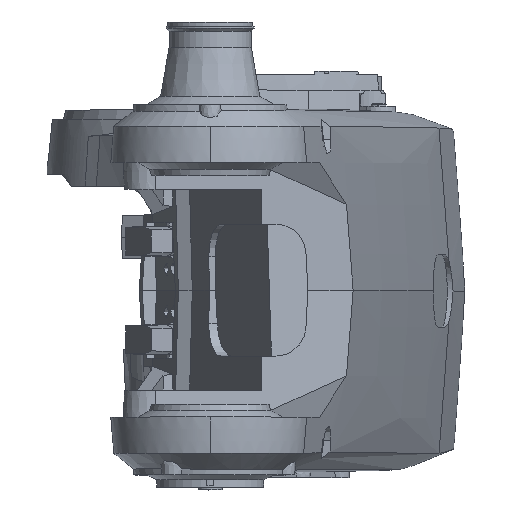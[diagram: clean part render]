
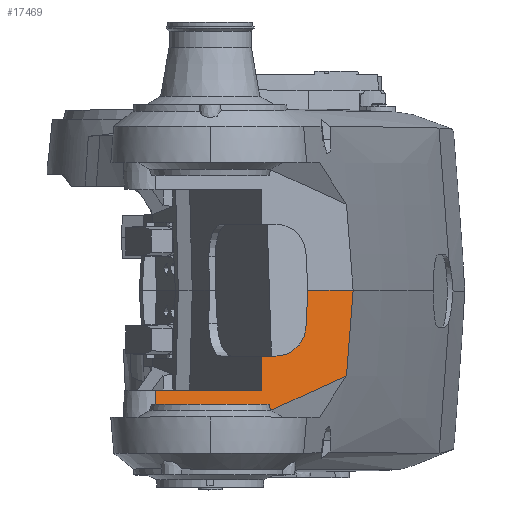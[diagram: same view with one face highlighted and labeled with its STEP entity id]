
A CAD part, top view. The second image highlights one B-rep face of the part: STEP entity #17469.
In plain terms, the highlighted planar face has unit normal (0.242, 0.035, 0.97).
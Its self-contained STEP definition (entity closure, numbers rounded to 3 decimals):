
#5 = LINE ( 'NONE', #23259, #13799 ) ;
#535 = CARTESIAN_POINT ( 'NONE',  ( 255.982, -148.5, 2132.939 ) ) ;
#747 = VERTEX_POINT ( 'NONE', #535 ) ;
#1765 = CARTESIAN_POINT ( 'NONE',  ( 479.06, -100.014, 2075.574 ) ) ;
#2645 = EDGE_CURVE ( 'NONE', #33471, #28735, #5, .T. ) ;
#3617 = LINE ( 'NONE', #35224, #18305 ) ;
#3838 = VERTEX_POINT ( 'NONE', #8697 ) ;
#4318 = VECTOR ( 'NONE', #4359, 1000. ) ;
#4359 = DIRECTION ( 'NONE',  ( -0.008, 0.999, -0.034 ) ) ;
#4596 = VERTEX_POINT ( 'NONE', #18001 ) ;
#5451 = VECTOR ( 'NONE', #16061, 1000. ) ;
#5471 = VERTEX_POINT ( 'NONE', #23297 ) ;
#5624 = CARTESIAN_POINT ( 'NONE',  ( 379.48, -117.5, 2101.031 ) ) ;
#6243 = CARTESIAN_POINT ( 'NONE',  ( 430.674, -63.466, 2086.323 ) ) ;
#6297 = EDGE_CURVE ( 'NONE', #35765, #3838, #3617, .T. ) ;
#6470 = EDGE_CURVE ( 'NONE', #4596, #26887, #31086, .T. ) ;
#6702 = CARTESIAN_POINT ( 'NONE',  ( 396.751, -77., 2095.268 ) ) ;
#7151 =( BOUNDED_CURVE ( )  B_SPLINE_CURVE ( 3, ( #14639, #11807, #6243, #14091 ),
 .UNSPECIFIED., .F., .F. ) 
 B_SPLINE_CURVE_WITH_KNOTS ( ( 4, 4 ),
 ( 4.569, 6.087 ),
 .UNSPECIFIED. ) 
 CURVE ( )  GEOMETRIC_REPRESENTATION_ITEM ( )  RATIONAL_B_SPLINE_CURVE ( ( 1., 0.817, 0.817, 1. ) ) 
 REPRESENTATION_ITEM ( '' )  );
#8283 = CARTESIAN_POINT ( 'NONE',  ( 431.703, -43.832, 2085.359 ) ) ;
#8697 = CARTESIAN_POINT ( 'NONE',  ( 486.74, 0., 2070.06 ) ) ;
#8811 = ORIENTED_EDGE ( 'NONE', *, *, #6297, .F. ) ;
#9992 = DIRECTION ( 'NONE',  ( 0.97, 0., -0.242 ) ) ;
#10138 = CARTESIAN_POINT ( 'NONE',  ( 434.439, 8.373, 2082.798 ) ) ;
#11750 = AXIS2_PLACEMENT_3D ( 'NONE', #13946, #37121, #34267 ) ;
#11807 = CARTESIAN_POINT ( 'NONE',  ( 416.412, -77., 2090.365 ) ) ;
#12055 = VECTOR ( 'NONE', #9992, 1000. ) ;
#12744 = EDGE_CURVE ( 'NONE', #747, #33471, #16606, .T. ) ;
#12789 = DIRECTION ( 'NONE',  ( 0.884, 0.404, -0.235 ) ) ;
#13234 = CARTESIAN_POINT ( 'NONE',  ( 484.543, -33.373, 2071.808 ) ) ;
#13799 = VECTOR ( 'NONE', #12789, 1000. ) ;
#13946 = CARTESIAN_POINT ( 'NONE',  ( 564.204, 0., 2050.746 ) ) ;
#14060 = ORIENTED_EDGE ( 'NONE', *, *, #25759, .F. ) ;
#14091 = CARTESIAN_POINT ( 'NONE',  ( 431.703, -43.832, 2085.359 ) ) ;
#14639 = CARTESIAN_POINT ( 'NONE',  ( 396.751, -77., 2095.268 ) ) ;
#16061 = DIRECTION ( 'NONE',  ( 0.97, 0., -0.242 ) ) ;
#16606 = LINE ( 'NONE', #36609, #5451 ) ;
#16644 = CARTESIAN_POINT ( 'NONE',  ( 564.854, -77., 2053.355 ) ) ;
#17135 = PLANE ( 'NONE',  #11750 ) ;
#17182 = CARTESIAN_POINT ( 'NONE',  ( 382.002, 5.592, 2095.972 ) ) ;
#17465 = VECTOR ( 'NONE', #21919, 1000. ) ;
#17469 = ADVANCED_FACE ( 'NONE', ( #19266 ), #17135, .F. ) ;
#18001 = CARTESIAN_POINT ( 'NONE',  ( 380.31, -77., 2099.367 ) ) ;
#18144 = VERTEX_POINT ( 'NONE', #6702 ) ;
#18305 = VECTOR ( 'NONE', #23606, 1000. ) ;
#18719 = CARTESIAN_POINT ( 'NONE',  ( 565.196, -117.5, 2054.727 ) ) ;
#18824 = ORIENTED_EDGE ( 'NONE', *, *, #12744, .T. ) ;
#18904 = LINE ( 'NONE', #18719, #12055 ) ;
#19017 = VERTEX_POINT ( 'NONE', #8283 ) ;
#19128 = CARTESIAN_POINT ( 'NONE',  ( 481.983, -66.711, 2073.647 ) ) ;
#19266 = FACE_OUTER_BOUND ( 'NONE', #23010, .T. ) ;
#19894 = VECTOR ( 'NONE', #34145, 1000. ) ;
#21268 = ORIENTED_EDGE ( 'NONE', *, *, #29472, .T. ) ;
#21917 = EDGE_CURVE ( 'NONE', #35765, #19017, #35807, .T. ) ;
#21919 = DIRECTION ( 'NONE',  ( -0.052, -0.997, 0.049 ) ) ;
#22899 = ORIENTED_EDGE ( 'NONE', *, *, #24569, .F. ) ;
#23010 = EDGE_LOOP ( 'NONE', ( #8811, #31757, #23713, #21268, #25305, #25302, #14060, #18824, #27133, #22899 ) ) ;
#23259 = CARTESIAN_POINT ( 'NONE',  ( 586.485, -50.926, 2047.023 ) ) ;
#23297 = CARTESIAN_POINT ( 'NONE',  ( 255.72, -117.5, 2131.888 ) ) ;
#23606 = DIRECTION ( 'NONE',  ( 0.97, 0., -0.242 ) ) ;
#23713 = ORIENTED_EDGE ( 'NONE', *, *, #33656, .F. ) ;
#24569 = EDGE_CURVE ( 'NONE', #3838, #28735, #32050, .T. ) ;
#25302 = ORIENTED_EDGE ( 'NONE', *, *, #30374, .F. ) ;
#25305 = ORIENTED_EDGE ( 'NONE', *, *, #6470, .T. ) ;
#25759 = EDGE_CURVE ( 'NONE', #747, #5471, #36146, .T. ) ;
#26887 = VERTEX_POINT ( 'NONE', #5624 ) ;
#27133 = ORIENTED_EDGE ( 'NONE', *, *, #2645, .T. ) ;
#27511 = CARTESIAN_POINT ( 'NONE',  ( 486.74, 0., 2070.06 ) ) ;
#28430 = LINE ( 'NONE', #16644, #19894 ) ;
#28735 = VERTEX_POINT ( 'NONE', #32078 ) ;
#29472 = EDGE_CURVE ( 'NONE', #18144, #4596, #28430, .T. ) ;
#30374 = EDGE_CURVE ( 'NONE', #5471, #26887, #18904, .T. ) ;
#30420 = CARTESIAN_POINT ( 'NONE',  ( 254.727, 0., 2127.907 ) ) ;
#31086 = LINE ( 'NONE', #17182, #32909 ) ;
#31371 = CARTESIAN_POINT ( 'NONE',  ( 372.951, -148.5, 2103.775 ) ) ;
#31757 = ORIENTED_EDGE ( 'NONE', *, *, #21917, .T. ) ;
#32050 = B_SPLINE_CURVE_WITH_KNOTS ( 'NONE', 3,
 ( #27511, #13234, #19128, #1765 ),
 .UNSPECIFIED., .F., .F.,
 ( 4, 4 ),
 ( 0., 0.1 ),
 .UNSPECIFIED. ) ;
#32078 = CARTESIAN_POINT ( 'NONE',  ( 479.06, -100.014, 2075.574 ) ) ;
#32909 = VECTOR ( 'NONE', #34492, 1000. ) ;
#33471 = VERTEX_POINT ( 'NONE', #31371 ) ;
#33656 = EDGE_CURVE ( 'NONE', #18144, #19017, #7151, .T. ) ;
#33790 = CARTESIAN_POINT ( 'NONE',  ( 434., 0., 2083.209 ) ) ;
#34145 = DIRECTION ( 'NONE',  ( -0.97, 0., 0.242 ) ) ;
#34267 = DIRECTION ( 'NONE',  ( 0.97, 0., -0.242 ) ) ;
#34492 = DIRECTION ( 'NONE',  ( -0.02, -0.999, 0.041 ) ) ;
#35224 = CARTESIAN_POINT ( 'NONE',  ( 564.204, 0., 2050.746 ) ) ;
#35765 = VERTEX_POINT ( 'NONE', #33790 ) ;
#35807 = LINE ( 'NONE', #10138, #17465 ) ;
#36146 = LINE ( 'NONE', #30420, #4318 ) ;
#36609 = CARTESIAN_POINT ( 'NONE',  ( 565.458, -148.5, 2055.777 ) ) ;
#37121 = DIRECTION ( 'NONE',  ( -0.242, -0.035, -0.97 ) ) ;
